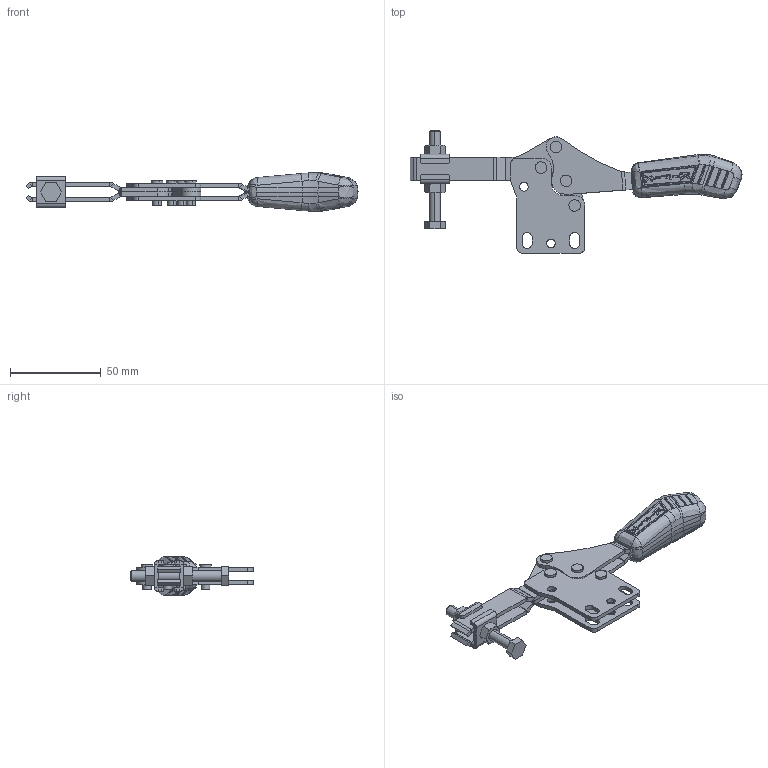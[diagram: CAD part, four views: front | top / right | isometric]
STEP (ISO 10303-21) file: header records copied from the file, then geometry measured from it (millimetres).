
FILE_DESCRIPTION (( 'STEP AP203' ), '1' );
FILE_NAME ('KF-712 R.STEP', '2018-03-06T11:30:42', ( 'Ricardo' ), ( '' ), 'SwSTEP 2.0', 'SolidWorks 2018', '' );
FILE_SCHEMA (( 'CONFIG_CONTROL_DESIGN' ));
Length unit declared in the file: millimetre
Products named in the file (14): 14.10004; 02.11101_esquerda; PS-M6; 03.13071; KF-712 R; 03.13071_esquerda; 08.10117; 3670000032; 07.60005; 01.10314; 12.50024; 01.10314_esquerda; 11.50001; 02.11101
Assembly tree (19 placements, depth 3):
  KF-712 R
    01.10314
    01.10314_esquerda
    02.11101
    02.11101_esquerda
    03.13071
    03.13071_esquerda
    08.10117  x2
    3670000032  x4
    07.60005
    PS-M6
      12.50024
      11.50001  x2
      14.10004  x2
Bounding box: 182.7 x 67.35 x 21.21 mm (x, y, z)
Volume: 38945.3 mm3; surface area: 30882.3 mm2
Topology: 18 solids, 18 shells, 1010 faces, 2524 edges, 1569 vertices
Faces by surface type: cylinder 330, plane 313, bspline 279, sphere 50, cone 36, torus 2
Entity records: 36194 total; most frequent: CARTESIAN_POINT 14842, ORIENTED_EDGE 4678, DIRECTION 3340, EDGE_CURVE 2339, VERTEX_POINT 1459, AXIS2_PLACEMENT_3D 1229, EDGE_LOOP 992, FACE_OUTER_BOUND 924
